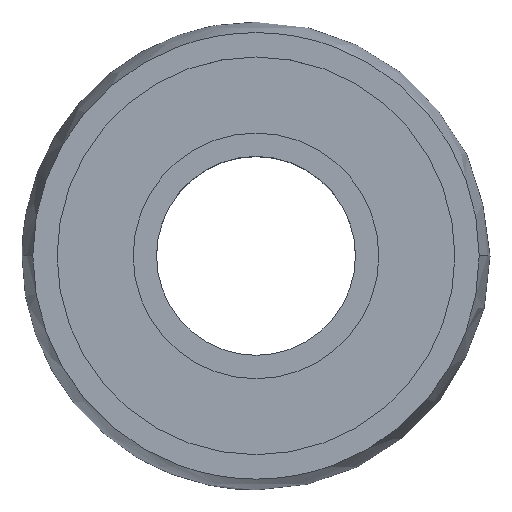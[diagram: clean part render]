
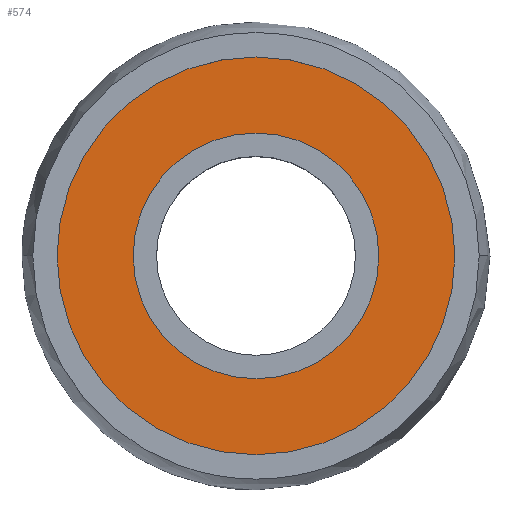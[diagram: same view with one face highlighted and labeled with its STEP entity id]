
A CAD part, top view. The second image highlights one B-rep face of the part: STEP entity #574.
In plain terms, the highlighted planar face has unit normal (0, 0, 1).
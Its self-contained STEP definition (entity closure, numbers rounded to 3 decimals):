
#89 = AXIS2_PLACEMENT_3D ( 'NONE', #117, #107, #106 ) ;
#104 = PLANE ( 'NONE',  #120 ) ;
#106 = DIRECTION ( 'NONE',  ( 1., 0., 0. ) ) ;
#107 = DIRECTION ( 'NONE',  ( 0., 0., 1. ) ) ;
#108 = DIRECTION ( 'NONE',  ( -1., 0., 0. ) ) ;
#109 = DIRECTION ( 'NONE',  ( 0., 0., -1. ) ) ;
#110 = CARTESIAN_POINT ( 'NONE',  ( -17., 0., 5.5 ) ) ;
#117 = CARTESIAN_POINT ( 'NONE',  ( 0., 0., 5.5 ) ) ;
#118 = FACE_BOUND ( 'NONE', #485, .T. ) ;
#120 = AXIS2_PLACEMENT_3D ( 'NONE', #110, #109, #108 ) ;
#125 = CIRCLE ( 'NONE', #89, 17. ) ;
#139 = FACE_OUTER_BOUND ( 'NONE', #489, .T. ) ;
#168 = CARTESIAN_POINT ( 'NONE',  ( -17., 0., 5.5 ) ) ;
#485 = EDGE_LOOP ( 'NONE', ( #575, #561 ) ) ;
#488 = EDGE_CURVE ( 'NONE', #520, #519, #991, .T. ) ;
#489 = EDGE_LOOP ( 'NONE', ( #491, #492 ) ) ;
#491 = ORIENTED_EDGE ( 'NONE', *, *, #572, .T. ) ;
#492 = ORIENTED_EDGE ( 'NONE', *, *, #514, .T. ) ;
#506 = VERTEX_POINT ( 'NONE', #951 ) ;
#514 = EDGE_CURVE ( 'NONE', #631, #506, #913, .T. ) ;
#517 = EDGE_CURVE ( 'NONE', #519, #520, #901, .T. ) ;
#519 = VERTEX_POINT ( 'NONE', #980 ) ;
#520 = VERTEX_POINT ( 'NONE', #892 ) ;
#561 = ORIENTED_EDGE ( 'NONE', *, *, #488, .F. ) ;
#572 = EDGE_CURVE ( 'NONE', #506, #631, #125, .T. ) ;
#574 = ADVANCED_FACE ( 'NONE', ( #118, #139 ), #104, .F. ) ;
#575 = ORIENTED_EDGE ( 'NONE', *, *, #517, .F. ) ;
#631 = VERTEX_POINT ( 'NONE', #168 ) ;
#890 = DIRECTION ( 'NONE',  ( 1., 0., 0. ) ) ;
#891 = DIRECTION ( 'NONE',  ( 0., 0., 1. ) ) ;
#892 = CARTESIAN_POINT ( 'NONE',  ( -10.5, 0., 5.5 ) ) ;
#899 = CARTESIAN_POINT ( 'NONE',  ( 0., 0., 5.5 ) ) ;
#901 = CIRCLE ( 'NONE', #904, 10.5 ) ;
#903 = DIRECTION ( 'NONE',  ( 1., 0., 0. ) ) ;
#904 = AXIS2_PLACEMENT_3D ( 'NONE', #899, #891, #890 ) ;
#912 = CARTESIAN_POINT ( 'NONE',  ( 0., 0., 5.5 ) ) ;
#913 = CIRCLE ( 'NONE', #915, 17. ) ;
#915 = AXIS2_PLACEMENT_3D ( 'NONE', #912, #916, #903 ) ;
#916 = DIRECTION ( 'NONE',  ( 0., 0., 1. ) ) ;
#951 = CARTESIAN_POINT ( 'NONE',  ( 17., 0., 5.5 ) ) ;
#980 = CARTESIAN_POINT ( 'NONE',  ( 10.5, 0., 5.5 ) ) ;
#990 = AXIS2_PLACEMENT_3D ( 'NONE', #1024, #1023, #1022 ) ;
#991 = CIRCLE ( 'NONE', #990, 10.5 ) ;
#1022 = DIRECTION ( 'NONE',  ( 1., 0., 0. ) ) ;
#1023 = DIRECTION ( 'NONE',  ( 0., 0., 1. ) ) ;
#1024 = CARTESIAN_POINT ( 'NONE',  ( 0., 0., 5.5 ) ) ;
